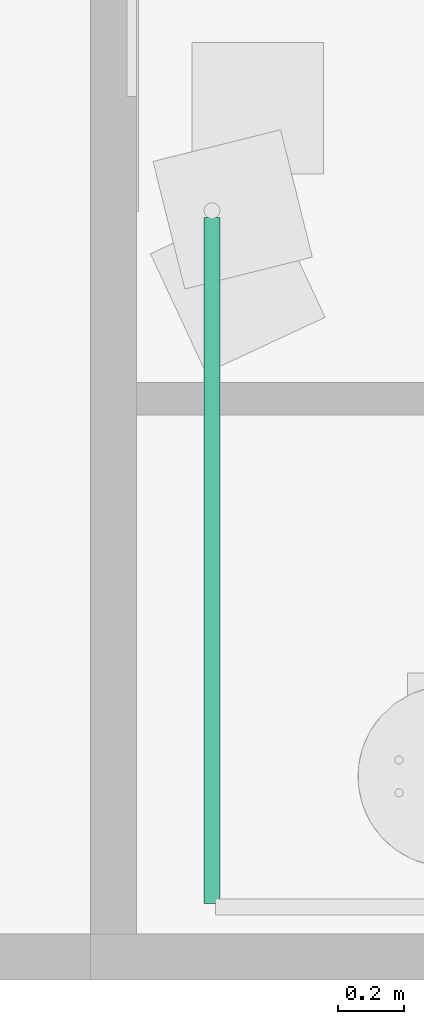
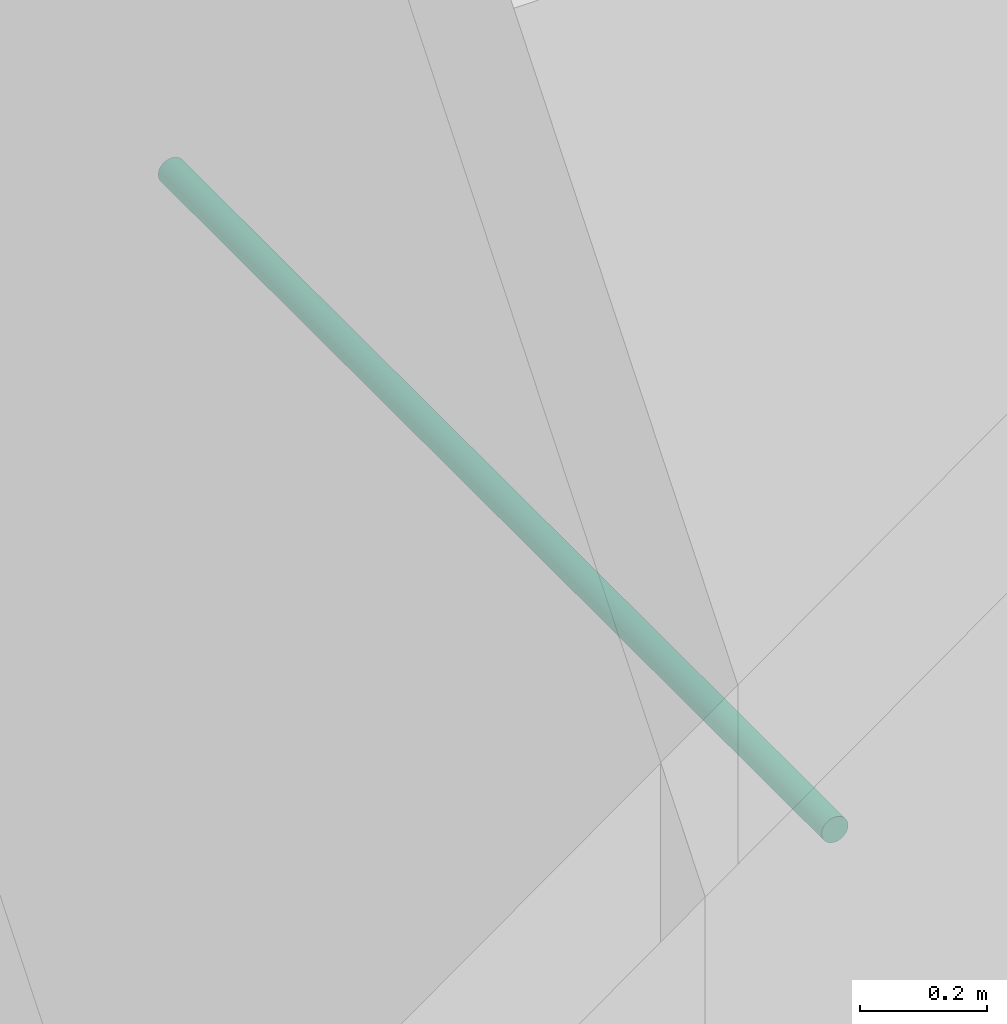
# One storey, part 14 of 72: 1 pipe segment.
"""IFC4 building model written with IfcOpenShell, lengths in centimetres."""

from ifc_helpers import new_model, entity, si_unit, converted_unit, derived_unit, direction, frame, origin, place, context, subcontext, project, spatial, arc, indexed_curve, outline, extrude, type_object, element, save


model = new_model("IFC4")

# Units and contexts
model_context = context("Model", 3, precision=0.001, world=origin(), true_north=direction((6.123233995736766e-17, 1.0)))
body_context = subcontext(model_context, "Body", "Model", "MODEL_VIEW")
ifc_project = project(units=[si_unit("LENGTHUNIT", "METRE", prefix="CENTI"), si_unit("AREAUNIT", "SQUARE_METRE"), si_unit("VOLUMEUNIT", "CUBIC_METRE"), derived_unit("THERMALTRANSMITTANCEUNIT", [(si_unit("MASSUNIT", "GRAM", prefix="KILO"), 1), (si_unit("THERMODYNAMICTEMPERATUREUNIT", "KELVIN"), -1), (si_unit("TIMEUNIT", "SECOND"), -3)]), converted_unit("PLANEANGLEUNIT", "DEGREE", entity("IfcPlaneAngleMeasure", 0.017453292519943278), si_unit("PLANEANGLEUNIT", "RADIAN"), dimensions=[0, 0, 0, 0, 0, 0, 0]), derived_unit("MASSDENSITYUNIT", [(si_unit("MASSUNIT", "GRAM", prefix="KILO"), 1), (si_unit("LENGTHUNIT", "METRE"), -3)]), derived_unit("VAPORPERMEABILITYUNIT", [(si_unit("LENGTHUNIT", "METRE"), -1), (si_unit("TIMEUNIT", "SECOND"), 1)]), derived_unit("USERDEFINED", [(si_unit("MASSUNIT", "GRAM", prefix="KILO"), 1), (si_unit("TIMEUNIT", "SECOND"), -3), (si_unit("LENGTHUNIT", "METRE"), 3), (si_unit("ELECTRICCURRENTUNIT", "AMPERE"), -2)]), derived_unit("SPECIFICHEATCAPACITYUNIT", [(si_unit("THERMODYNAMICTEMPERATUREUNIT", "KELVIN"), -1), (si_unit("LENGTHUNIT", "METRE"), 2), (si_unit("TIMEUNIT", "SECOND"), -2)]), derived_unit("THERMALCONDUCTANCEUNIT", [(si_unit("MASSUNIT", "GRAM", prefix="KILO"), 1), (si_unit("THERMODYNAMICTEMPERATUREUNIT", "KELVIN"), -1), (si_unit("TIMEUNIT", "SECOND"), -3), (si_unit("LENGTHUNIT", "METRE"), 1)]), si_unit("PRESSUREUNIT", "PASCAL"), derived_unit("MODULUSOFELASTICITYUNIT", [(si_unit("MASSUNIT", "GRAM", prefix="KILO"), 1), (si_unit("LENGTHUNIT", "METRE"), -1), (si_unit("TIMEUNIT", "SECOND"), -2)]), derived_unit("THERMALEXPANSIONCOEFFICIENTUNIT", [(si_unit("THERMODYNAMICTEMPERATUREUNIT", "KELVIN"), -1)])], contexts=[model_context])

# Site, building, storey
site_placement = place(None, origin())
site = spatial("IfcSite", under=ifc_project, at=site_placement, Name="Default", CompositionType="ELEMENT")
building_placement = place(site_placement, origin())
building = spatial("IfcBuilding", under=site, at=building_placement, Name="IDS Escape Game Building", CompositionType="ELEMENT")
storey_placement = place(building_placement, frame((0.0, 0.0, 800.0)))
storey = spatial("IfcBuildingStorey", under=building, at=storey_placement, Name="02_Second Floor", CompositionType="ELEMENT", Elevation=800.0)

# Pipe segment
pipe_segment_type = type_object("IfcPipeSegmentType", Name="Pipe Types:Piping Aluminum", PredefinedType="NOTDEFINED")
pipe_segment_placement = place(storey_placement, origin())
element("IfcPipeSegment", 1, at=pipe_segment_placement, inside=storey, type_object=pipe_segment_type, Name="Pipe Types:Piping Aluminum", ObjectType="Pipe Types:Piping Aluminum", PredefinedType="NOTDEFINED", context=body_context, shape_type="SweptSolid", body=[
    extrude(outline(indexed_curve([(2.4130000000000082, 0.0), (1.7062486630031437, 1.7062486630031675), (-3.383959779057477e-15, 2.412999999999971), (-1.7062486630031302, 1.7062486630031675), (-2.412999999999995, 0.0), (-1.7062486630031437, -1.7062486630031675), (-6.767919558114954e-15, -2.412999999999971), (1.706248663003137, -1.7062486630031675)], segments=[arc(1, 2, 3), arc(3, 4, 5), arc(5, 6, 7), arc(7, 8, 1)], self_intersect=False)), frame((30.046716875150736, 22.36482792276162, 242.0), z_axis=(0.0, 1.0, 0.0), x_axis=(1.0, 0.0, 0.0)), (0.0, 0.0, 1.0), 208.80000000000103),
])

save(model, "model.ifc")
